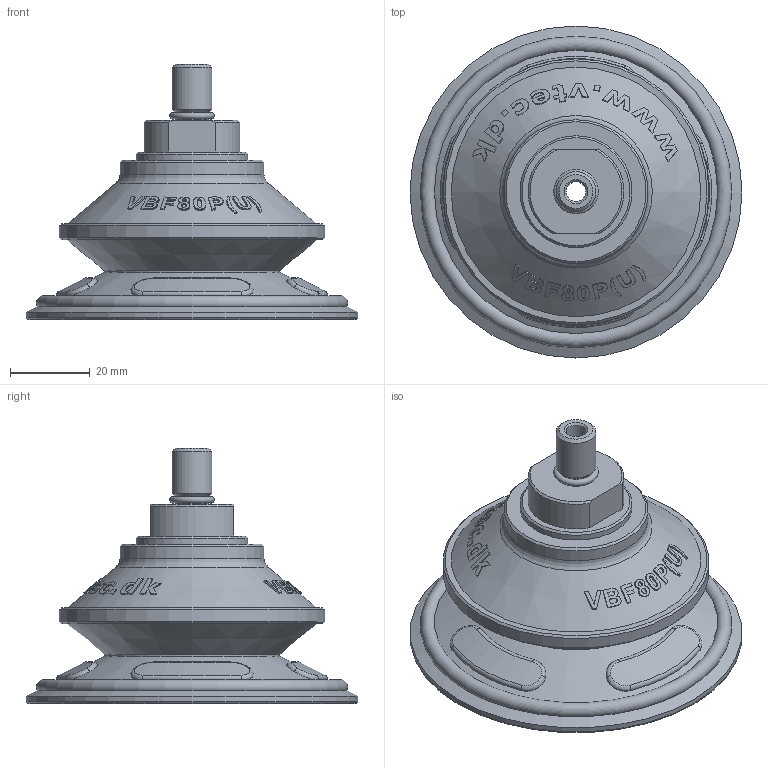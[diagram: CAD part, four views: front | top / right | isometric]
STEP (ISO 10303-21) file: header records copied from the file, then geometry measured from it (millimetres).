
FILE_DESCRIPTION( ( 'Unknown' ), '1' );
FILE_NAME( 'D:/濛機奢濰/Vacuum Pads/VBF/VBF80/STP/VBF80 P(U)_M10M.stp', 'Unknown', ( 'Unknown' ), ( 'Unknown' ), 'PSStep 10.0', 'Unknown', ' ' );
FILE_SCHEMA( ( 'automotive_design' ) );
Length unit declared in the file: millimetre
Products named in the file (1): VBF80_18F
Bounding box: 83 x 83 x 64 mm (x, y, z)
Volume: 39717.5 mm3; surface area: 27616.2 mm2
Topology: 1 solids, 1 shells, 269 faces, 642 edges, 418 vertices
Faces by surface type: bspline 163, cone 57, plane 18, torus 17, cylinder 14
Full cylindrical faces by diameter (mm): 5 x1, 8 x2, 8.6 x1, 10 x1, 11.2 x1, 28 x1, 33 x1, 36 x1, 66.5 x1, 80 x1, 83 x1
Entity records: 18100 total; most frequent: CARTESIAN_POINT 11259, ORIENTED_EDGE 1180, EDGE_CURVE 590, B_SPLINE_CURVE_WITH_KNOTS 479, DIRECTION 428, VERTEX_POINT 415, EDGE_LOOP 363, FACE_OUTER_BOUND 294
